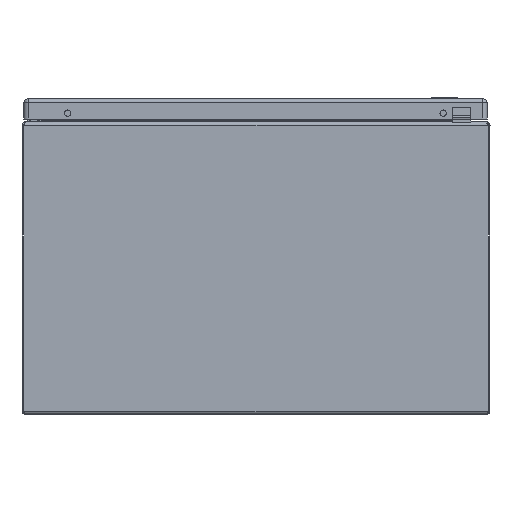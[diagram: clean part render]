
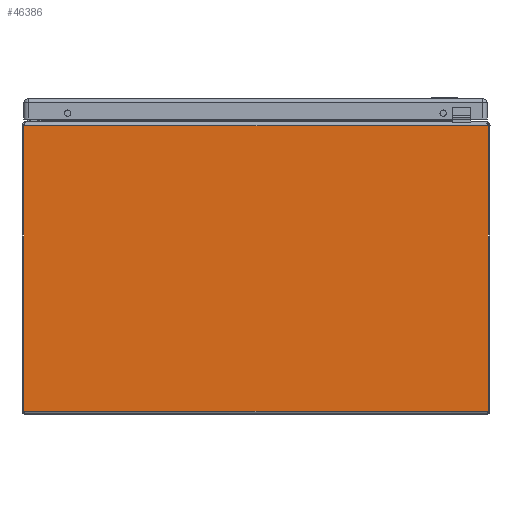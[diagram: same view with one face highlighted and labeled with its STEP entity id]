
A CAD part, front view. The second image highlights one B-rep face of the part: STEP entity #46386.
In plain terms, the highlighted planar face has unit normal (0, -1, 0).
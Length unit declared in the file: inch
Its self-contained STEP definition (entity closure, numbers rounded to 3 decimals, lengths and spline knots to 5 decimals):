
#1892 = CARTESIAN_POINT ( 'NONE',  ( -108., -10., 9.859 ) ) ;
#1899 = PLANE ( 'NONE',  #37698 ) ;
#1904 = DIRECTION ( 'NONE',  ( 0., -1., 0. ) ) ;
#1905 = DIRECTION ( 'NONE',  ( 0., 0., -1. ) ) ;
#12174 = EDGE_CURVE ( 'NONE', #16376, #16374, #40969, .T. ) ;
#12217 = EDGE_CURVE ( 'NONE', #16423, #16419, #41024, .T. ) ;
#12227 = EDGE_CURVE ( 'NONE', #16376, #16419, #41052, .T. ) ;
#12231 = EDGE_CURVE ( 'NONE', #16374, #16423, #41059, .T. ) ;
#16043 = ORIENTED_EDGE ( 'NONE', *, *, #12217, .T. ) ;
#16044 = ORIENTED_EDGE ( 'NONE', *, *, #12227, .F. ) ;
#16045 = ORIENTED_EDGE ( 'NONE', *, *, #12174, .T. ) ;
#16046 = ORIENTED_EDGE ( 'NONE', *, *, #12231, .T. ) ;
#16374 = VERTEX_POINT ( 'NONE', #44054 ) ;
#16376 = VERTEX_POINT ( 'NONE', #44058 ) ;
#16419 = VERTEX_POINT ( 'NONE', #44108 ) ;
#16423 = VERTEX_POINT ( 'NONE', #44111 ) ;
#31924 = EDGE_LOOP ( 'NONE', ( #16043, #16044, #16045, #16046 ) ) ;
#37698 = AXIS2_PLACEMENT_3D ( 'NONE', #1892, #1904, #1905 ) ;
#40961 = VECTOR ( 'NONE', #42677, 39.37008 ) ;
#40969 = LINE ( 'NONE', #42673, #40961 ) ;
#41024 = LINE ( 'NONE', #42784, #41034 ) ;
#41034 = VECTOR ( 'NONE', #42785, 39.37008 ) ;
#41052 = LINE ( 'NONE', #42805, #41053 ) ;
#41053 = VECTOR ( 'NONE', #42806, 39.37008 ) ;
#41059 = LINE ( 'NONE', #42813, #41060 ) ;
#41060 = VECTOR ( 'NONE', #42814, 39.37008 ) ;
#42673 = CARTESIAN_POINT ( 'NONE',  ( -7.94693, -10., 9.859 ) ) ;
#42677 = DIRECTION ( 'NONE',  ( 0., 0., -1. ) ) ;
#42784 = CARTESIAN_POINT ( 'NONE',  ( 7.94693, -10., 9.859 ) ) ;
#42785 = DIRECTION ( 'NONE',  ( 0., 0., 1. ) ) ;
#42805 = CARTESIAN_POINT ( 'NONE',  ( -108., -10., 9.859 ) ) ;
#42806 = DIRECTION ( 'NONE',  ( 1., 0., 0. ) ) ;
#42813 = CARTESIAN_POINT ( 'NONE',  ( -108., -10., 0.097 ) ) ;
#42814 = DIRECTION ( 'NONE',  ( 1., 0., 0. ) ) ;
#44054 = CARTESIAN_POINT ( 'NONE',  ( -7.94693, -10., 0.097 ) ) ;
#44058 = CARTESIAN_POINT ( 'NONE',  ( -7.94693, -10., 9.859 ) ) ;
#44108 = CARTESIAN_POINT ( 'NONE',  ( 7.94693, -10., 9.859 ) ) ;
#44111 = CARTESIAN_POINT ( 'NONE',  ( 7.94693, -10., 0.097 ) ) ;
#45753 = FACE_OUTER_BOUND ( 'NONE', #31924, .T. ) ;
#46386 = ADVANCED_FACE ( 'NONE', ( #45753 ), #1899, .T. ) ;
